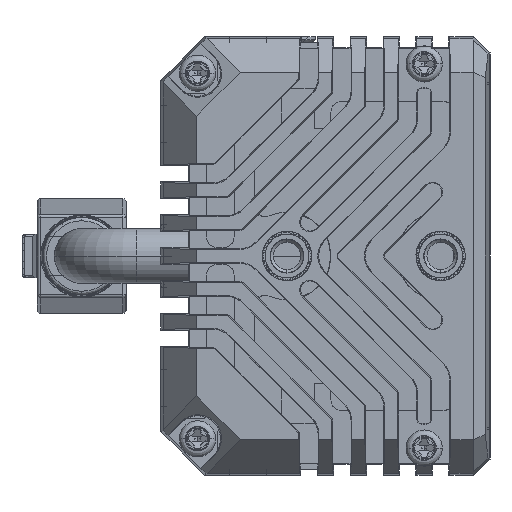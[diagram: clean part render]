
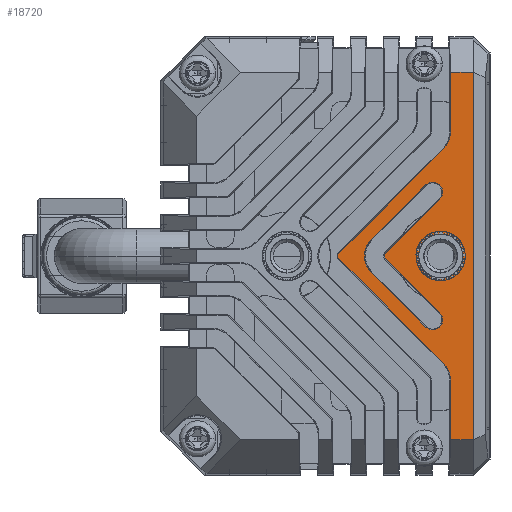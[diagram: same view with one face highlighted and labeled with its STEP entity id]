
A CAD part, left-side view. The second image highlights one B-rep face of the part: STEP entity #18720.
In plain terms, the highlighted planar face has unit normal (-1, 0, 0) as drawn and (0, 0, 1) by its records, which use the part's own axes.
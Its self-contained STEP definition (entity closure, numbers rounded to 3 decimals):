
#11618=CARTESIAN_POINT('',(0.,-1.473,0.));
#11619=DIRECTION('',(0.,0.,1.));
#11620=DIRECTION('',(0.707,0.707,0.));
#11621=AXIS2_PLACEMENT_3D('',#11618,#11619,#11620);
#11627=DIRECTION('',(0.707,-0.707,0.));
#11628=VECTOR('',#11627,13.498);
#11629=CARTESIAN_POINT('',(0.242,-1.231,0.));
#11630=LINE('',#11629,#11628);
#11634=DIRECTION('',(-1.,0.,0.));
#11635=VECTOR('',#11634,5.438);
#11636=CARTESIAN_POINT('',(16.75,-11.407,0.));
#11637=LINE('',#11636,#11635);
#11641=DIRECTION('',(0.,1.,0.));
#11642=VECTOR('',#11641,2.093);
#11643=CARTESIAN_POINT('',(16.75,-13.5,0.));
#11644=LINE('',#11643,#11642);
#11648=DIRECTION('',(1.,0.,0.));
#11649=VECTOR('',#11648,33.5);
#11650=CARTESIAN_POINT('',(-16.75,-13.5,0.));
#11651=LINE('',#11650,#11649);
#11655=DIRECTION('',(0.,1.,0.));
#11656=VECTOR('',#11655,2.093);
#11657=CARTESIAN_POINT('',(-16.75,-13.5,0.));
#11658=LINE('',#11657,#11656);
#11662=DIRECTION('',(1.,0.,0.));
#11663=VECTOR('',#11662,5.438);
#11664=CARTESIAN_POINT('',(-16.75,-11.407,0.));
#11665=LINE('',#11664,#11663);
#11669=DIRECTION('',(0.707,0.707,0.));
#11670=VECTOR('',#11669,13.498);
#11671=CARTESIAN_POINT('',(-9.787,-10.775,0.));
#11672=LINE('',#11671,#11670);
#11676=CARTESIAN_POINT('',(0.,-5.716,0.));
#11677=DIRECTION('',(0.,0.,1.));
#11678=DIRECTION('',(0.707,0.707,0.));
#11679=AXIS2_PLACEMENT_3D('',#11676,#11677,#11678);
#11684=DIRECTION('',(0.707,-0.707,0.));
#11685=VECTOR('',#11684,6.997);
#11686=CARTESIAN_POINT('',(0.242,-5.473,0.));
#11687=LINE('',#11686,#11685);
#11691=CARTESIAN_POINT('',(5.831,-9.78,0.));
#11692=DIRECTION('',(0.,0.,1.));
#11693=DIRECTION('',(-0.707,-0.707,0.));
#11694=AXIS2_PLACEMENT_3D('',#11691,#11692,#11693);
#11699=DIRECTION('',(-0.707,0.707,0.));
#11700=VECTOR('',#11699,6.997);
#11701=CARTESIAN_POINT('',(6.473,-9.138,0.));
#11702=LINE('',#11701,#11700);
#11706=DIRECTION('',(-0.707,-0.707,0.));
#11707=VECTOR('',#11706,6.997);
#11708=CARTESIAN_POINT('',(-1.525,-4.191,0.));
#11709=LINE('',#11708,#11707);
#11713=CARTESIAN_POINT('',(-5.831,-9.78,0.));
#11714=DIRECTION('',(0.,0.,1.));
#11715=DIRECTION('',(-0.707,0.707,0.));
#11716=AXIS2_PLACEMENT_3D('',#11713,#11714,#11715);
#11721=DIRECTION('',(0.707,0.707,0.));
#11722=VECTOR('',#11721,6.997);
#11723=CARTESIAN_POINT('',(-5.19,-10.421,0.));
#11724=LINE('',#11723,#11722);
#12391=CARTESIAN_POINT('',(0.,-10.5,0.));
#12392=DIRECTION('',(0.,0.,1.));
#12393=DIRECTION('',(1.,0.,0.));
#12394=AXIS2_PLACEMENT_3D('',#12391,#12392,#12393);
#12399=CARTESIAN_POINT('',(0.,-10.5,0.));
#12400=DIRECTION('',(0.,0.,1.));
#12401=DIRECTION('',(-1.,0.,0.));
#12402=AXIS2_PLACEMENT_3D('',#12399,#12400,#12401);
#12429=CARTESIAN_POINT('',(-11.312,-9.25,0.));
#12430=DIRECTION('',(0.,0.,-1.));
#12431=DIRECTION('',(0.707,-0.707,0.));
#12432=AXIS2_PLACEMENT_3D('',#12429,#12430,#12431);
#15760=CARTESIAN_POINT('',(11.312,-9.25,0.));
#15761=DIRECTION('',(0.,0.,-1.));
#15762=DIRECTION('',(0.,-1.,0.));
#15763=AXIS2_PLACEMENT_3D('',#15760,#15761,#15762);
#17429=CARTESIAN_POINT('',(0.,-5.716,0.));
#17430=DIRECTION('',(0.,0.,-1.));
#17431=DIRECTION('',(-0.707,0.707,0.));
#17432=AXIS2_PLACEMENT_3D('',#17429,#17430,#17431);
#17585=CARTESIAN_POINT('',(-16.75,-13.5,0.));
#17586=CARTESIAN_POINT('',(16.75,-13.5,0.));
#17587=VERTEX_POINT('',#17585);
#17588=VERTEX_POINT('',#17586);
#17601=CARTESIAN_POINT('',(2.,-10.5,0.));
#17602=CARTESIAN_POINT('',(-2.,-10.5,0.));
#17603=VERTEX_POINT('',#17601);
#17604=VERTEX_POINT('',#17602);
#17685=CARTESIAN_POINT('',(16.75,-11.407,0.));
#17686=VERTEX_POINT('',#17685);
#17695=CARTESIAN_POINT('',(-6.473,-9.138,0.));
#17697=VERTEX_POINT('',#17695);
#17701=CARTESIAN_POINT('',(-5.19,-10.421,0.));
#17702=VERTEX_POINT('',#17701);
#17707=CARTESIAN_POINT('',(6.473,-9.138,0.));
#17708=VERTEX_POINT('',#17707);
#17709=CARTESIAN_POINT('',(5.19,-10.421,0.));
#17710=VERTEX_POINT('',#17709);
#17715=CARTESIAN_POINT('',(11.312,-11.407,0.));
#17716=VERTEX_POINT('',#17715);
#17717=CARTESIAN_POINT('',(9.787,-10.775,0.));
#17718=VERTEX_POINT('',#17717);
#17779=CARTESIAN_POINT('',(-9.787,-10.775,0.));
#17780=VERTEX_POINT('',#17779);
#17781=CARTESIAN_POINT('',(-11.312,-11.407,0.));
#17782=VERTEX_POINT('',#17781);
#17787=CARTESIAN_POINT('',(-1.525,-4.191,0.));
#17788=VERTEX_POINT('',#17787);
#17789=CARTESIAN_POINT('',(1.525,-4.191,0.));
#17790=VERTEX_POINT('',#17789);
#17805=CARTESIAN_POINT('',(-16.75,-11.407,0.));
#17806=VERTEX_POINT('',#17805);
#17807=CARTESIAN_POINT('',(0.242,-5.473,0.));
#17808=CARTESIAN_POINT('',(-0.242,-5.473,0.));
#17809=VERTEX_POINT('',#17807);
#17810=VERTEX_POINT('',#17808);
#17815=CARTESIAN_POINT('',(0.242,-1.231,0.));
#17816=CARTESIAN_POINT('',(-0.242,-1.231,0.));
#17817=VERTEX_POINT('',#17815);
#17818=VERTEX_POINT('',#17816);
#18669=CARTESIAN_POINT('',(0.,0.,0.));
#18670=DIRECTION('',(0.,0.,1.));
#18671=DIRECTION('',(1.,0.,0.));
#18672=AXIS2_PLACEMENT_3D('',#18669,#18670,#18671);
#18673=PLANE('',#18672);
#18675=ORIENTED_EDGE('',*,*,#18674,.F.);
#18677=ORIENTED_EDGE('',*,*,#18676,.T.);
#18679=ORIENTED_EDGE('',*,*,#18678,.F.);
#18681=ORIENTED_EDGE('',*,*,#18680,.F.);
#18683=ORIENTED_EDGE('',*,*,#18682,.F.);
#18685=ORIENTED_EDGE('',*,*,#18684,.F.);
#18687=ORIENTED_EDGE('',*,*,#18686,.T.);
#18689=ORIENTED_EDGE('',*,*,#18688,.T.);
#18691=ORIENTED_EDGE('',*,*,#18690,.F.);
#18693=ORIENTED_EDGE('',*,*,#18692,.T.);
#18694=EDGE_LOOP('',(#18675,#18677,#18679,#18681,#18683,#18685,#18687,#18689,
#18691,#18693));
#18695=FACE_OUTER_BOUND('',#18694,.F.);
#18697=ORIENTED_EDGE('',*,*,#18696,.F.);
#18699=ORIENTED_EDGE('',*,*,#18698,.T.);
#18701=ORIENTED_EDGE('',*,*,#18700,.T.);
#18703=ORIENTED_EDGE('',*,*,#18702,.T.);
#18705=ORIENTED_EDGE('',*,*,#18704,.F.);
#18707=ORIENTED_EDGE('',*,*,#18706,.T.);
#18709=ORIENTED_EDGE('',*,*,#18708,.T.);
#18711=ORIENTED_EDGE('',*,*,#18710,.T.);
#18712=EDGE_LOOP('',(#18697,#18699,#18701,#18703,#18705,#18707,#18709,#18711));
#18713=FACE_BOUND('',#18712,.F.);
#18715=ORIENTED_EDGE('',*,*,#18714,.T.);
#18717=ORIENTED_EDGE('',*,*,#18716,.T.);
#18718=EDGE_LOOP('',(#18715,#18717));
#18719=FACE_BOUND('',#18718,.F.);
#11622=CIRCLE('',#11621,0.343);
#11680=CIRCLE('',#11679,0.343);
#11695=CIRCLE('',#11694,0.907);
#11717=CIRCLE('',#11716,0.907);
#12395=CIRCLE('',#12394,2.);
#12403=CIRCLE('',#12402,2.);
#12433=CIRCLE('',#12432,2.157);
#15764=CIRCLE('',#15763,2.157);
#17433=CIRCLE('',#17432,2.157);
#18674=EDGE_CURVE('',#17817,#17818,#11622,.T.);
#18676=EDGE_CURVE('',#17817,#17718,#11630,.T.);
#18678=EDGE_CURVE('',#17716,#17718,#15764,.T.);
#18680=EDGE_CURVE('',#17686,#17716,#11637,.T.);
#18682=EDGE_CURVE('',#17588,#17686,#11644,.T.);
#18684=EDGE_CURVE('',#17587,#17588,#11651,.T.);
#18686=EDGE_CURVE('',#17587,#17806,#11658,.T.);
#18688=EDGE_CURVE('',#17806,#17782,#11665,.T.);
#18690=EDGE_CURVE('',#17780,#17782,#12433,.T.);
#18692=EDGE_CURVE('',#17780,#17818,#11672,.T.);
#18696=EDGE_CURVE('',#17809,#17810,#11680,.T.);
#18698=EDGE_CURVE('',#17809,#17710,#11687,.T.);
#18700=EDGE_CURVE('',#17710,#17708,#11695,.T.);
#18702=EDGE_CURVE('',#17708,#17790,#11702,.T.);
#18704=EDGE_CURVE('',#17788,#17790,#17433,.T.);
#18706=EDGE_CURVE('',#17788,#17697,#11709,.T.);
#18708=EDGE_CURVE('',#17697,#17702,#11717,.T.);
#18710=EDGE_CURVE('',#17702,#17810,#11724,.T.);
#18714=EDGE_CURVE('',#17603,#17604,#12395,.T.);
#18716=EDGE_CURVE('',#17604,#17603,#12403,.T.);
#18720=ADVANCED_FACE('',(#18695,#18713,#18719),#18673,.T.);
